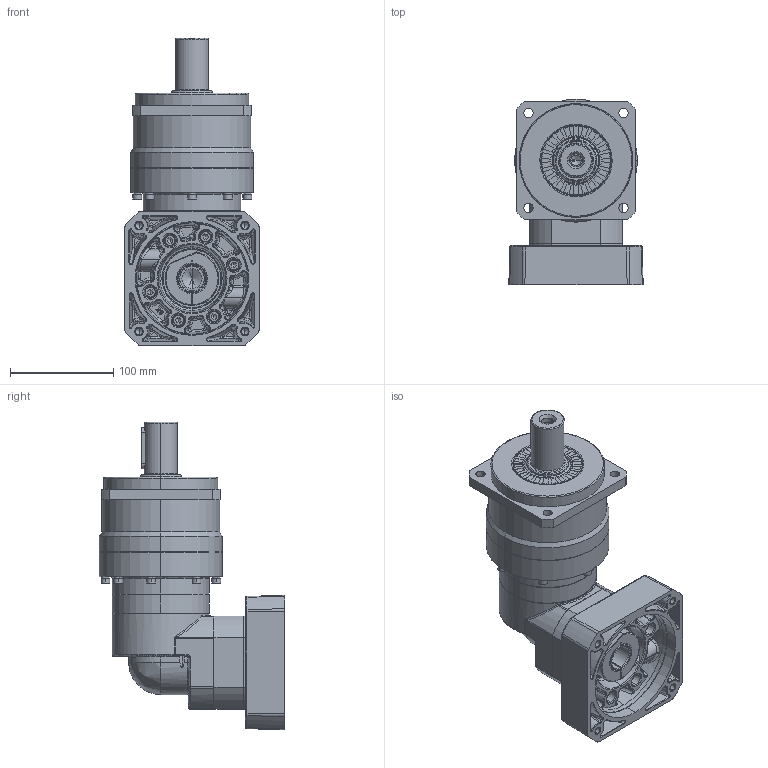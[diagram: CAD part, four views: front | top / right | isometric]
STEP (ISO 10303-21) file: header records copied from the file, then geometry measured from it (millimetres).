
FILE_DESCRIPTION (( 'STEP AP214' ), '1' );
FILE_NAME ('EVB115-L2-S2-P1 24-110-145-M8-59.STEP', '2025-01-09T06:17:26', ( '微软用户' ), ( '微软中国' ), 'SwSTEP 2.0', 'SolidWorks 2021', '' );
FILE_SCHEMA (( 'AUTOMOTIVE_DESIGN' ));
Length unit declared in the file: millimetre
Products named in the file (4): EVB115-L2-S2-P1 24-110-145-M8-59; EVT090D-L1-10-80-100-M6-45; EVB115M1-L2-S2-24-110-145-M8-59; 7-EVT090F眻褒眊极_stp_stp.stp
Assembly tree (4 placements, depth 2):
  EVB115-L2-S2-P1 24-110-145-M8-59
    EVB115M1-L2-S2-24-110-145-M8-59
    7-EVT090F眻褒眊极_stp_stp.stp
    EVT090D-L1-10-80-100-M6-45  x2
Bounding box: 130 x 179.5 x 297.5 mm (x, y, z)
Volume: 242121.5 mm3; surface area: 346020 mm2
Topology: 1 solids, 46 shells, 1779 faces, 4344 edges, 2696 vertices
Faces by surface type: plane 529, cylinder 476, bspline 441, cone 271, torus 62
Entity records: 73522 total; most frequent: CARTESIAN_POINT 35405, ORIENTED_EDGE 8261, DIRECTION 7142, EDGE_CURVE 4194, AXIS2_PLACEMENT_3D 2837, VERTEX_POINT 2651, EDGE_LOOP 1942, ADVANCED_FACE 1751
